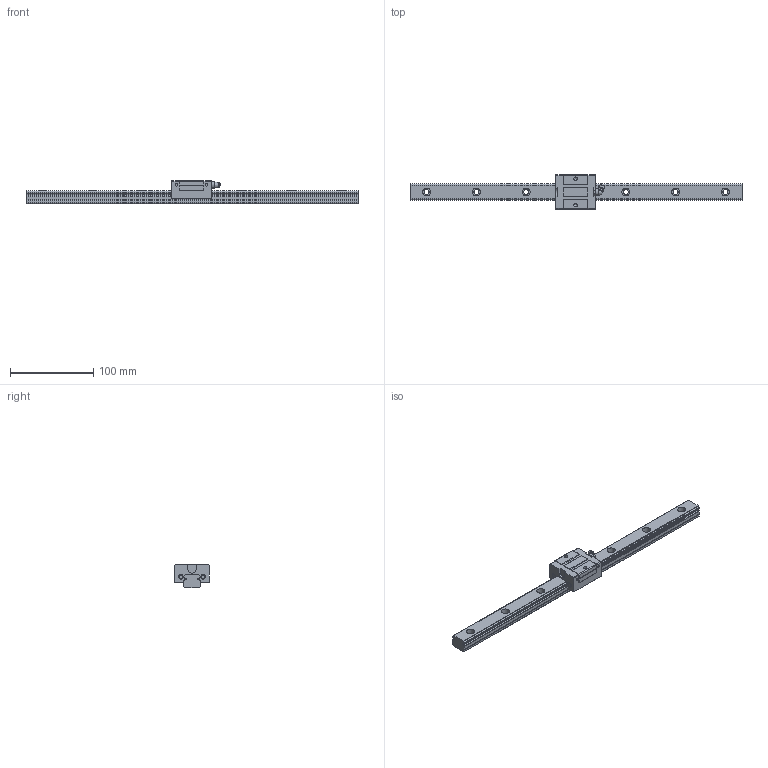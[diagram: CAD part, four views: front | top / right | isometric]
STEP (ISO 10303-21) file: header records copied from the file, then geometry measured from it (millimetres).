
FILE_DESCRIPTION((''),'2;1');
FILE_NAME('D:\製品 (図面)\カタログ用3D\リニアガイド関連\STEP形式\LGSR-S\LGSR20S.stp','2010-06-02T16:02:32',('Tsuchiya'),(''),'Autodesk Inventor 10','Autodesk Inventor 10','');
FILE_SCHEMA(('AUTOMOTIVE_DESIGN { 1 0 10303 214 1 1 1 1 }'));
Length unit declared in the file: millimetre
Products named in the file (3): LGSR20S; LGSR20S1; LGSR20S2
Assembly tree (2 placements, depth 2):
  LGSR20S
    LGSR20S1
    LGSR20S2
Bounding box: 400 x 42 x 28 mm (x, y, z)
Volume: 145680.5 mm3; surface area: 43102.6 mm2
Topology: 2 solids, 2 shells, 177 faces, 457 edges, 302 vertices
Faces by surface type: plane 84, cylinder 47, bspline 41, sphere 3, cone 2
Full cylindrical faces by diameter (mm): 2.9 x2, 4.5 x2, 5.5 x2, 7 x1, 7.7 x1
Entity records: 5738 total; most frequent: CARTESIAN_POINT 1538, DIRECTION 834, ORIENTED_EDGE 816, EDGE_CURVE 408, VERTEX_POINT 294, AXIS2_PLACEMENT_3D 289, VECTOR 256, LINE 256
